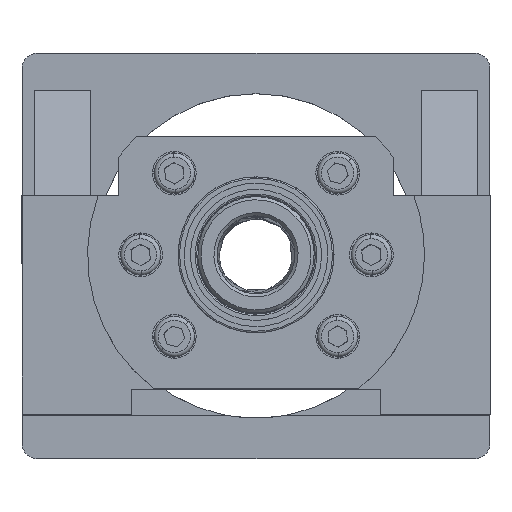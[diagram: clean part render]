
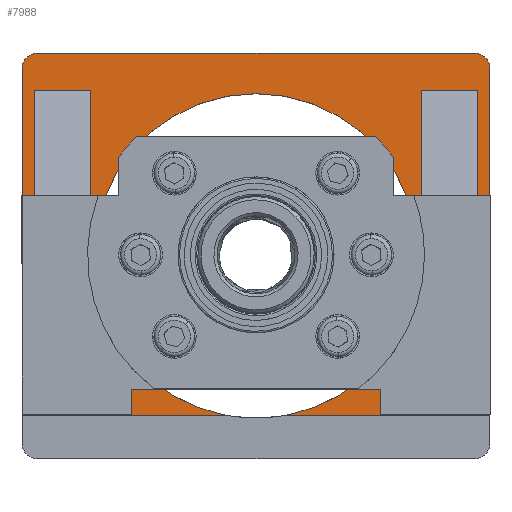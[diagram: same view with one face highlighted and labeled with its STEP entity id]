
A CAD part, top view. The second image highlights one B-rep face of the part: STEP entity #7988.
In plain terms, the highlighted planar face has unit normal (0, 0, 1).
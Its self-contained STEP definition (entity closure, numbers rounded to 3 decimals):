
#63 = DIRECTION ( 'NONE',  ( 0., 0., 1. ) ) ;
#177 = CARTESIAN_POINT ( 'NONE',  ( -75., 60., 22. ) ) ;
#322 = ORIENTED_EDGE ( 'NONE', *, *, #10469, .T. ) ;
#337 = CARTESIAN_POINT ( 'NONE',  ( -75., -65., 22. ) ) ;
#338 = CARTESIAN_POINT ( 'NONE',  ( -71., -51., 22. ) ) ;
#352 = VECTOR ( 'NONE', #8862, 1000. ) ;
#568 = EDGE_CURVE ( 'NONE', #3448, #11059, #7219, .T. ) ;
#614 = VECTOR ( 'NONE', #8122, 1000. ) ;
#680 = VERTEX_POINT ( 'NONE', #10662 ) ;
#691 = ORIENTED_EDGE ( 'NONE', *, *, #6927, .F. ) ;
#761 = VERTEX_POINT ( 'NONE', #8323 ) ;
#840 = CIRCLE ( 'NONE', #6563, 5. ) ;
#861 = CARTESIAN_POINT ( 'NONE',  ( 53., 17., 22. ) ) ;
#1339 = DIRECTION ( 'NONE',  ( 0., 0., 1. ) ) ;
#1470 = ORIENTED_EDGE ( 'NONE', *, *, #11175, .F. ) ;
#1570 = LINE ( 'NONE', #4750, #6403 ) ;
#1809 = CIRCLE ( 'NONE', #8462, 52. ) ;
#1826 = DIRECTION ( 'NONE',  ( 0., 1., 0. ) ) ;
#1928 = EDGE_CURVE ( 'NONE', #9488, #8200, #12175, .T. ) ;
#2190 = CARTESIAN_POINT ( 'NONE',  ( 75., 60., 22. ) ) ;
#2214 = VERTEX_POINT ( 'NONE', #9506 ) ;
#2225 = FACE_OUTER_BOUND ( 'NONE', #4365, .T. ) ;
#2263 = LINE ( 'NONE', #11567, #9036 ) ;
#2422 = VERTEX_POINT ( 'NONE', #12140 ) ;
#2438 = CARTESIAN_POINT ( 'NONE',  ( 0., 0., 22. ) ) ;
#2603 = LINE ( 'NONE', #9339, #4571 ) ;
#2926 = EDGE_CURVE ( 'NONE', #761, #3448, #1809, .T. ) ;
#2960 = DIRECTION ( 'NONE',  ( 0., 1., 0. ) ) ;
#3040 = ORIENTED_EDGE ( 'NONE', *, *, #11151, .T. ) ;
#3171 = CARTESIAN_POINT ( 'NONE',  ( 0., 0., 22. ) ) ;
#3193 = LINE ( 'NONE', #7248, #614 ) ;
#3213 = CARTESIAN_POINT ( 'NONE',  ( 70., 60., 22. ) ) ;
#3255 = ORIENTED_EDGE ( 'NONE', *, *, #3890, .T. ) ;
#3256 = VERTEX_POINT ( 'NONE', #2190 ) ;
#3276 = EDGE_LOOP ( 'NONE', ( #1470, #691, #10414, #6132 ) ) ;
#3414 = DIRECTION ( 'NONE',  ( 0., 0., 1. ) ) ;
#3448 = VERTEX_POINT ( 'NONE', #3873 ) ;
#3518 = AXIS2_PLACEMENT_3D ( 'NONE', #3213, #9922, #4191 ) ;
#3546 = CARTESIAN_POINT ( 'NONE',  ( 53., 53., 22. ) ) ;
#3562 = CARTESIAN_POINT ( 'NONE',  ( -70., 65., 22. ) ) ;
#3641 = CARTESIAN_POINT ( 'NONE',  ( 0., 0., 22. ) ) ;
#3698 = DIRECTION ( 'NONE',  ( -1., 0., 0. ) ) ;
#3757 = VERTEX_POINT ( 'NONE', #7214 ) ;
#3792 = EDGE_CURVE ( 'NONE', #4414, #5833, #2263, .T. ) ;
#3873 = CARTESIAN_POINT ( 'NONE',  ( 52., 0., 22. ) ) ;
#3890 = EDGE_CURVE ( 'NONE', #9535, #11550, #3193, .T. ) ;
#3940 = AXIS2_PLACEMENT_3D ( 'NONE', #337, #1339, #8061 ) ;
#4191 = DIRECTION ( 'NONE',  ( 1., 0., 0. ) ) ;
#4231 = PLANE ( 'NONE',  #3940 ) ;
#4317 = ORIENTED_EDGE ( 'NONE', *, *, #1928, .F. ) ;
#4362 = CARTESIAN_POINT ( 'NONE',  ( -75., 53., 22. ) ) ;
#4365 = EDGE_LOOP ( 'NONE', ( #7222, #5969, #12275, #12468, #5766, #322, #3040, #5819, #7794, #3255 ) ) ;
#4414 = VERTEX_POINT ( 'NONE', #10163 ) ;
#4571 = VECTOR ( 'NONE', #7387, 1000. ) ;
#4612 = DIRECTION ( 'NONE',  ( 1., 0., 0. ) ) ;
#4740 = DIRECTION ( 'NONE',  ( 1., 0., 0. ) ) ;
#4748 = DIRECTION ( 'NONE',  ( -1., 0., 0. ) ) ;
#4750 = CARTESIAN_POINT ( 'NONE',  ( 75., 65., 22. ) ) ;
#4787 = VERTEX_POINT ( 'NONE', #5911 ) ;
#4898 = CARTESIAN_POINT ( 'NONE',  ( -52., 0., 22. ) ) ;
#5251 = LINE ( 'NONE', #9445, #5548 ) ;
#5548 = VECTOR ( 'NONE', #3698, 1000. ) ;
#5704 = DIRECTION ( 'NONE',  ( 0., 1., 0. ) ) ;
#5766 = ORIENTED_EDGE ( 'NONE', *, *, #6455, .T. ) ;
#5819 = ORIENTED_EDGE ( 'NONE', *, *, #7854, .T. ) ;
#5833 = VERTEX_POINT ( 'NONE', #7926 ) ;
#5851 = CARTESIAN_POINT ( 'NONE',  ( -70., 60., 22. ) ) ;
#5911 = CARTESIAN_POINT ( 'NONE',  ( 70., 65., 22. ) ) ;
#5969 = ORIENTED_EDGE ( 'NONE', *, *, #6082, .F. ) ;
#5995 = LINE ( 'NONE', #12478, #8850 ) ;
#6082 = EDGE_CURVE ( 'NONE', #11059, #10005, #10421, .T. ) ;
#6115 = DIRECTION ( 'NONE',  ( 1., 0., 0. ) ) ;
#6132 = ORIENTED_EDGE ( 'NONE', *, *, #3792, .F. ) ;
#6290 = DIRECTION ( 'NONE',  ( -1., 0., 0. ) ) ;
#6403 = VECTOR ( 'NONE', #5704, 1000. ) ;
#6455 = EDGE_CURVE ( 'NONE', #761, #2422, #9676, .T. ) ;
#6552 = CARTESIAN_POINT ( 'NONE',  ( -76.047, -51.01, 22. ) ) ;
#6563 = AXIS2_PLACEMENT_3D ( 'NONE', #5851, #63, #6808 ) ;
#6695 = LINE ( 'NONE', #861, #11495 ) ;
#6739 = CARTESIAN_POINT ( 'NONE',  ( -10.099, -51.01, 22. ) ) ;
#6756 = VECTOR ( 'NONE', #4740, 1000. ) ;
#6772 = DIRECTION ( 'NONE',  ( 1., 0., 0. ) ) ;
#6808 = DIRECTION ( 'NONE',  ( 1., 0., 0. ) ) ;
#6900 = VERTEX_POINT ( 'NONE', #3546 ) ;
#6927 = EDGE_CURVE ( 'NONE', #680, #2214, #2603, .T. ) ;
#7120 = VECTOR ( 'NONE', #6115, 1000. ) ;
#7214 = CARTESIAN_POINT ( 'NONE',  ( 71., 53., 22. ) ) ;
#7219 = CIRCLE ( 'NONE', #11211, 52. ) ;
#7222 = ORIENTED_EDGE ( 'NONE', *, *, #7806, .T. ) ;
#7248 = CARTESIAN_POINT ( 'NONE',  ( -75., 65., 22. ) ) ;
#7324 = FACE_BOUND ( 'NONE', #3276, .T. ) ;
#7377 = CARTESIAN_POINT ( 'NONE',  ( 71., -51., 22. ) ) ;
#7387 = DIRECTION ( 'NONE',  ( 0., -1., 0. ) ) ;
#7452 = ORIENTED_EDGE ( 'NONE', *, *, #10468, .T. ) ;
#7455 = CARTESIAN_POINT ( 'NONE',  ( -75., -51.01, 22. ) ) ;
#7737 = CARTESIAN_POINT ( 'NONE',  ( 53., -51., 22. ) ) ;
#7794 = ORIENTED_EDGE ( 'NONE', *, *, #8458, .T. ) ;
#7806 = EDGE_CURVE ( 'NONE', #11550, #10005, #11138, .T. ) ;
#7854 = EDGE_CURVE ( 'NONE', #4787, #12057, #11381, .T. ) ;
#7871 = VECTOR ( 'NONE', #6290, 1000. ) ;
#7882 = EDGE_CURVE ( 'NONE', #3757, #8200, #5995, .T. ) ;
#7926 = CARTESIAN_POINT ( 'NONE',  ( -53., 53., 22. ) ) ;
#7988 = ADVANCED_FACE ( 'NONE', ( #2225, #7324, #9582 ), #4231, .T. ) ;
#8025 = CIRCLE ( 'NONE', #3518, 5. ) ;
#8061 = DIRECTION ( 'NONE',  ( 1., 0., 0. ) ) ;
#8122 = DIRECTION ( 'NONE',  ( 0., -1., 0. ) ) ;
#8200 = VERTEX_POINT ( 'NONE', #7377 ) ;
#8323 = CARTESIAN_POINT ( 'NONE',  ( 10.099, -51.01, 22. ) ) ;
#8458 = EDGE_CURVE ( 'NONE', #12057, #9535, #840, .T. ) ;
#8462 = AXIS2_PLACEMENT_3D ( 'NONE', #2438, #3414, #10109 ) ;
#8850 = VECTOR ( 'NONE', #9267, 1000. ) ;
#8862 = DIRECTION ( 'NONE',  ( 1., 0., 0. ) ) ;
#8990 = ORIENTED_EDGE ( 'NONE', *, *, #11591, .F. ) ;
#9036 = VECTOR ( 'NONE', #2960, 1000. ) ;
#9143 = VECTOR ( 'NONE', #4748, 1000. ) ;
#9208 = ORIENTED_EDGE ( 'NONE', *, *, #7882, .T. ) ;
#9267 = DIRECTION ( 'NONE',  ( 0., -1., 0. ) ) ;
#9339 = CARTESIAN_POINT ( 'NONE',  ( -71., 17., 22. ) ) ;
#9445 = CARTESIAN_POINT ( 'NONE',  ( -75., 53., 22. ) ) ;
#9488 = VERTEX_POINT ( 'NONE', #7737 ) ;
#9506 = CARTESIAN_POINT ( 'NONE',  ( -71., -51., 22. ) ) ;
#9535 = VERTEX_POINT ( 'NONE', #177 ) ;
#9582 = FACE_BOUND ( 'NONE', #11407, .T. ) ;
#9624 = DIRECTION ( 'NONE',  ( 0., 0., 1. ) ) ;
#9676 = LINE ( 'NONE', #11709, #352 ) ;
#9702 = AXIS2_PLACEMENT_3D ( 'NONE', #3641, #10343, #4612 ) ;
#9922 = DIRECTION ( 'NONE',  ( 0., 0., 1. ) ) ;
#10005 = VERTEX_POINT ( 'NONE', #6739 ) ;
#10109 = DIRECTION ( 'NONE',  ( 1., 0., 0. ) ) ;
#10163 = CARTESIAN_POINT ( 'NONE',  ( -53., -51., 22. ) ) ;
#10343 = DIRECTION ( 'NONE',  ( 0., 0., 1. ) ) ;
#10414 = ORIENTED_EDGE ( 'NONE', *, *, #10783, .F. ) ;
#10421 = CIRCLE ( 'NONE', #9702, 52. ) ;
#10424 = LINE ( 'NONE', #4362, #7871 ) ;
#10468 = EDGE_CURVE ( 'NONE', #9488, #6900, #6695, .T. ) ;
#10469 = EDGE_CURVE ( 'NONE', #2422, #3256, #1570, .T. ) ;
#10484 = CARTESIAN_POINT ( 'NONE',  ( -75., 65., 22. ) ) ;
#10662 = CARTESIAN_POINT ( 'NONE',  ( -71., 53., 22. ) ) ;
#10783 = EDGE_CURVE ( 'NONE', #5833, #680, #10424, .T. ) ;
#10842 = VECTOR ( 'NONE', #11316, 1000. ) ;
#11059 = VERTEX_POINT ( 'NONE', #4898 ) ;
#11138 = LINE ( 'NONE', #6552, #10842 ) ;
#11151 = EDGE_CURVE ( 'NONE', #3256, #4787, #8025, .T. ) ;
#11175 = EDGE_CURVE ( 'NONE', #2214, #4414, #12241, .T. ) ;
#11211 = AXIS2_PLACEMENT_3D ( 'NONE', #3171, #9624, #6772 ) ;
#11316 = DIRECTION ( 'NONE',  ( 1., 0., 0. ) ) ;
#11381 = LINE ( 'NONE', #10484, #9143 ) ;
#11407 = EDGE_LOOP ( 'NONE', ( #4317, #7452, #8990, #9208 ) ) ;
#11495 = VECTOR ( 'NONE', #1826, 1000. ) ;
#11550 = VERTEX_POINT ( 'NONE', #7455 ) ;
#11567 = CARTESIAN_POINT ( 'NONE',  ( -53., 17., 22. ) ) ;
#11591 = EDGE_CURVE ( 'NONE', #3757, #6900, #5251, .T. ) ;
#11709 = CARTESIAN_POINT ( 'NONE',  ( -76.047, -51.01, 22. ) ) ;
#12033 = CARTESIAN_POINT ( 'NONE',  ( 53., -51., 22. ) ) ;
#12057 = VERTEX_POINT ( 'NONE', #3562 ) ;
#12140 = CARTESIAN_POINT ( 'NONE',  ( 75., -51.01, 22. ) ) ;
#12175 = LINE ( 'NONE', #12033, #6756 ) ;
#12241 = LINE ( 'NONE', #338, #7120 ) ;
#12275 = ORIENTED_EDGE ( 'NONE', *, *, #568, .F. ) ;
#12468 = ORIENTED_EDGE ( 'NONE', *, *, #2926, .F. ) ;
#12478 = CARTESIAN_POINT ( 'NONE',  ( 71., 17., 22. ) ) ;
